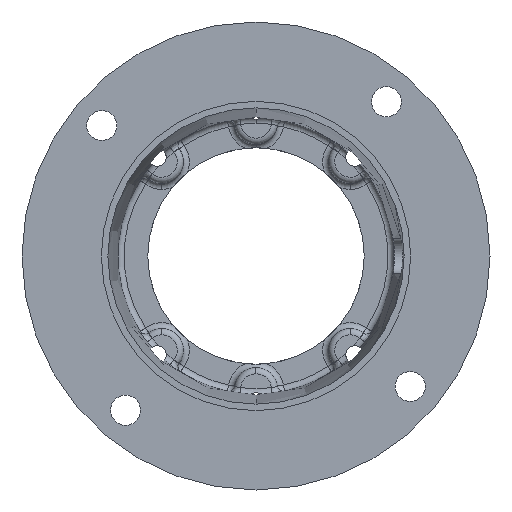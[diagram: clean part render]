
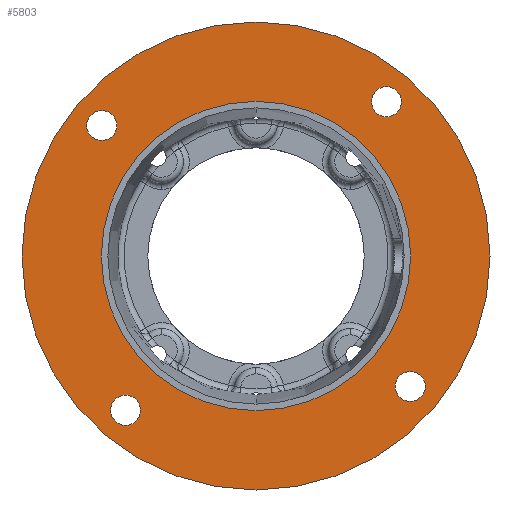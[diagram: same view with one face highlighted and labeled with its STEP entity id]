
A CAD part, front view. The second image highlights one B-rep face of the part: STEP entity #5803.
In plain terms, the highlighted planar face has unit normal (0, -1, 0).
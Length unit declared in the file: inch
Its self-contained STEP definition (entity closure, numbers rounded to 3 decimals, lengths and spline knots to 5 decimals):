
#13 = CARTESIAN_POINT ( 'NONE',  ( 0., 0.168, 0. ) ) ;
#36 = CIRCLE ( 'NONE', #7907, 0.21875 ) ;
#93 = CARTESIAN_POINT ( 'NONE',  ( 0., 0.168, 0. ) ) ;
#119 = ORIENTED_EDGE ( 'NONE', *, *, #4589, .F. ) ;
#151 = EDGE_LOOP ( 'NONE', ( #1627, #6186 ) ) ;
#272 = CIRCLE ( 'NONE', #3573, 2.2505 ) ;
#471 = CIRCLE ( 'NONE', #5219, 2.2505 ) ;
#563 = DIRECTION ( 'NONE',  ( 0., -1., 0. ) ) ;
#602 = DIRECTION ( 'NONE',  ( 0., 0., -1. ) ) ;
#639 = DIRECTION ( 'NONE',  ( 0., 0., -1. ) ) ;
#730 = DIRECTION ( 'NONE',  ( 0., 0., -1. ) ) ;
#783 = VERTEX_POINT ( 'NONE', #2495 ) ;
#791 = CIRCLE ( 'NONE', #1538, 3.405 ) ;
#914 = CIRCLE ( 'NONE', #2308, 0.21875 ) ;
#1175 = CARTESIAN_POINT ( 'NONE',  ( 0., 0.168, -3.405 ) ) ;
#1314 = VERTEX_POINT ( 'NONE', #4826 ) ;
#1332 = CIRCLE ( 'NONE', #1830, 0.21875 ) ;
#1379 = DIRECTION ( 'NONE',  ( 0., -1., 0. ) ) ;
#1381 = ORIENTED_EDGE ( 'NONE', *, *, #8058, .F. ) ;
#1506 = EDGE_CURVE ( 'NONE', #6085, #783, #272, .T. ) ;
#1538 = AXIS2_PLACEMENT_3D ( 'NONE', #93, #4528, #730 ) ;
#1627 = ORIENTED_EDGE ( 'NONE', *, *, #5719, .F. ) ;
#1707 = VERTEX_POINT ( 'NONE', #6423 ) ;
#1711 = DIRECTION ( 'NONE',  ( 0., -1., 0. ) ) ;
#1790 = CIRCLE ( 'NONE', #3120, 0.21875 ) ;
#1830 = AXIS2_PLACEMENT_3D ( 'NONE', #7518, #3737, #8143 ) ;
#1896 = CIRCLE ( 'NONE', #6814, 0.21875 ) ;
#2067 = EDGE_LOOP ( 'NONE', ( #3619, #7036 ) ) ;
#2076 = EDGE_CURVE ( 'NONE', #4623, #1707, #36, .T. ) ;
#2097 = AXIS2_PLACEMENT_3D ( 'NONE', #4649, #2109, #6561 ) ;
#2109 = DIRECTION ( 'NONE',  ( 0., -1., 0. ) ) ;
#2124 = VERTEX_POINT ( 'NONE', #5515 ) ;
#2178 = EDGE_CURVE ( 'NONE', #1707, #4623, #1332, .T. ) ;
#2308 = AXIS2_PLACEMENT_3D ( 'NONE', #5531, #1711, #6165 ) ;
#2344 = CARTESIAN_POINT ( 'NONE',  ( -2.24475, 0.168, 2.11736 ) ) ;
#2481 = FACE_OUTER_BOUND ( 'NONE', #6411, .T. ) ;
#2495 = CARTESIAN_POINT ( 'NONE',  ( 0., 0.168, -2.2505 ) ) ;
#2562 = ORIENTED_EDGE ( 'NONE', *, *, #7164, .F. ) ;
#2601 = CARTESIAN_POINT ( 'NONE',  ( 2.24475, 0.168, -1.89861 ) ) ;
#2689 = FACE_BOUND ( 'NONE', #2067, .T. ) ;
#2764 = CIRCLE ( 'NONE', #5145, 0.21875 ) ;
#2837 = EDGE_CURVE ( 'NONE', #6257, #5423, #5503, .T. ) ;
#2890 = DIRECTION ( 'NONE',  ( 0., -1., 0. ) ) ;
#2980 = DIRECTION ( 'NONE',  ( 0., -1., 0. ) ) ;
#3001 = CARTESIAN_POINT ( 'NONE',  ( 1.89861, 0.168, 2.026 ) ) ;
#3025 = VERTEX_POINT ( 'NONE', #3001 ) ;
#3120 = AXIS2_PLACEMENT_3D ( 'NONE', #4368, #563, #5020 ) ;
#3238 = DIRECTION ( 'NONE',  ( 0., 0., -1. ) ) ;
#3335 = CARTESIAN_POINT ( 'NONE',  ( -1.89861, 0.168, -2.24475 ) ) ;
#3540 = CARTESIAN_POINT ( 'NONE',  ( 2.24475, 0.168, -1.67986 ) ) ;
#3573 = AXIS2_PLACEMENT_3D ( 'NONE', #8160, #4399, #602 ) ;
#3588 = ORIENTED_EDGE ( 'NONE', *, *, #2837, .T. ) ;
#3619 = ORIENTED_EDGE ( 'NONE', *, *, #2178, .F. ) ;
#3640 = DIRECTION ( 'NONE',  ( 0., -1., 0. ) ) ;
#3652 = CIRCLE ( 'NONE', #3857, 0.21875 ) ;
#3662 = VERTEX_POINT ( 'NONE', #3761 ) ;
#3737 = DIRECTION ( 'NONE',  ( 0., -1., 0. ) ) ;
#3761 = CARTESIAN_POINT ( 'NONE',  ( -1.89861, 0.168, -2.4635 ) ) ;
#3764 = ORIENTED_EDGE ( 'NONE', *, *, #5658, .F. ) ;
#3857 = AXIS2_PLACEMENT_3D ( 'NONE', #5180, #1379, #5822 ) ;
#3977 = DIRECTION ( 'NONE',  ( 0., 0., -1. ) ) ;
#4041 = EDGE_CURVE ( 'NONE', #5266, #3662, #2764, .T. ) ;
#4055 = ORIENTED_EDGE ( 'NONE', *, *, #7577, .T. ) ;
#4135 = CARTESIAN_POINT ( 'NONE',  ( 0., 0.168, 3.405 ) ) ;
#4164 = FACE_BOUND ( 'NONE', #5653, .T. ) ;
#4368 = CARTESIAN_POINT ( 'NONE',  ( 1.89861, 0.168, 2.24475 ) ) ;
#4372 = FACE_BOUND ( 'NONE', #6107, .T. ) ;
#4384 = AXIS2_PLACEMENT_3D ( 'NONE', #3335, #7751, #3977 ) ;
#4399 = DIRECTION ( 'NONE',  ( 0., -1., 0. ) ) ;
#4442 = DIRECTION ( 'NONE',  ( 0., -1., 0. ) ) ;
#4518 = ORIENTED_EDGE ( 'NONE', *, *, #1506, .F. ) ;
#4528 = DIRECTION ( 'NONE',  ( 0., -1., 0. ) ) ;
#4589 = EDGE_CURVE ( 'NONE', #1314, #4985, #914, .T. ) ;
#4623 = VERTEX_POINT ( 'NONE', #2344 ) ;
#4649 = CARTESIAN_POINT ( 'NONE',  ( 0., 0.168, 0. ) ) ;
#4826 = CARTESIAN_POINT ( 'NONE',  ( 2.24475, 0.168, -2.11736 ) ) ;
#4985 = VERTEX_POINT ( 'NONE', #3540 ) ;
#5020 = DIRECTION ( 'NONE',  ( 0., 0., -1. ) ) ;
#5145 = AXIS2_PLACEMENT_3D ( 'NONE', #7416, #3640, #8052 ) ;
#5176 = EDGE_CURVE ( 'NONE', #4985, #1314, #1896, .T. ) ;
#5180 = CARTESIAN_POINT ( 'NONE',  ( 1.89861, 0.168, 2.24475 ) ) ;
#5219 = AXIS2_PLACEMENT_3D ( 'NONE', #13, #4442, #639 ) ;
#5266 = VERTEX_POINT ( 'NONE', #6008 ) ;
#5350 = AXIS2_PLACEMENT_3D ( 'NONE', #6685, #2890, #7297 ) ;
#5423 = VERTEX_POINT ( 'NONE', #4135 ) ;
#5503 = CIRCLE ( 'NONE', #5350, 3.405 ) ;
#5515 = CARTESIAN_POINT ( 'NONE',  ( 1.89861, 0.168, 2.4635 ) ) ;
#5531 = CARTESIAN_POINT ( 'NONE',  ( 2.24475, 0.168, -1.89861 ) ) ;
#5624 = EDGE_LOOP ( 'NONE', ( #119, #6715 ) ) ;
#5653 = EDGE_LOOP ( 'NONE', ( #1381, #4518 ) ) ;
#5658 = EDGE_CURVE ( 'NONE', #2124, #3025, #1790, .T. ) ;
#5719 = EDGE_CURVE ( 'NONE', #3662, #5266, #6265, .T. ) ;
#5803 = ADVANCED_FACE ( 'NONE', ( #4372, #2689, #7522, #7723, #4164, #2481 ), #5915, .T. ) ;
#5822 = DIRECTION ( 'NONE',  ( 0., 0., -1. ) ) ;
#5915 = PLANE ( 'NONE',  #2097 ) ;
#5999 = CARTESIAN_POINT ( 'NONE',  ( 0., 0.168, 2.2505 ) ) ;
#6008 = CARTESIAN_POINT ( 'NONE',  ( -1.89861, 0.168, -2.026 ) ) ;
#6085 = VERTEX_POINT ( 'NONE', #5999 ) ;
#6107 = EDGE_LOOP ( 'NONE', ( #2562, #3764 ) ) ;
#6165 = DIRECTION ( 'NONE',  ( 0., 0., -1. ) ) ;
#6186 = ORIENTED_EDGE ( 'NONE', *, *, #4041, .F. ) ;
#6257 = VERTEX_POINT ( 'NONE', #1175 ) ;
#6265 = CIRCLE ( 'NONE', #4384, 0.21875 ) ;
#6411 = EDGE_LOOP ( 'NONE', ( #3588, #4055 ) ) ;
#6423 = CARTESIAN_POINT ( 'NONE',  ( -2.24475, 0.168, 1.67986 ) ) ;
#6561 = DIRECTION ( 'NONE',  ( 0., 0., -1. ) ) ;
#6685 = CARTESIAN_POINT ( 'NONE',  ( 0., 0.168, 0. ) ) ;
#6715 = ORIENTED_EDGE ( 'NONE', *, *, #5176, .F. ) ;
#6764 = CARTESIAN_POINT ( 'NONE',  ( -2.24475, 0.168, 1.89861 ) ) ;
#6814 = AXIS2_PLACEMENT_3D ( 'NONE', #2601, #7025, #3238 ) ;
#7025 = DIRECTION ( 'NONE',  ( 0., -1., 0. ) ) ;
#7036 = ORIENTED_EDGE ( 'NONE', *, *, #2076, .F. ) ;
#7164 = EDGE_CURVE ( 'NONE', #3025, #2124, #3652, .T. ) ;
#7297 = DIRECTION ( 'NONE',  ( 0., 0., -1. ) ) ;
#7378 = DIRECTION ( 'NONE',  ( 0., 0., -1. ) ) ;
#7416 = CARTESIAN_POINT ( 'NONE',  ( -1.89861, 0.168, -2.24475 ) ) ;
#7518 = CARTESIAN_POINT ( 'NONE',  ( -2.24475, 0.168, 1.89861 ) ) ;
#7522 = FACE_BOUND ( 'NONE', #5624, .T. ) ;
#7577 = EDGE_CURVE ( 'NONE', #5423, #6257, #791, .T. ) ;
#7723 = FACE_BOUND ( 'NONE', #151, .T. ) ;
#7751 = DIRECTION ( 'NONE',  ( 0., -1., 0. ) ) ;
#7907 = AXIS2_PLACEMENT_3D ( 'NONE', #6764, #2980, #7378 ) ;
#8052 = DIRECTION ( 'NONE',  ( 0., 0., -1. ) ) ;
#8058 = EDGE_CURVE ( 'NONE', #783, #6085, #471, .T. ) ;
#8143 = DIRECTION ( 'NONE',  ( 0., 0., -1. ) ) ;
#8160 = CARTESIAN_POINT ( 'NONE',  ( 0., 0.168, 0. ) ) ;
